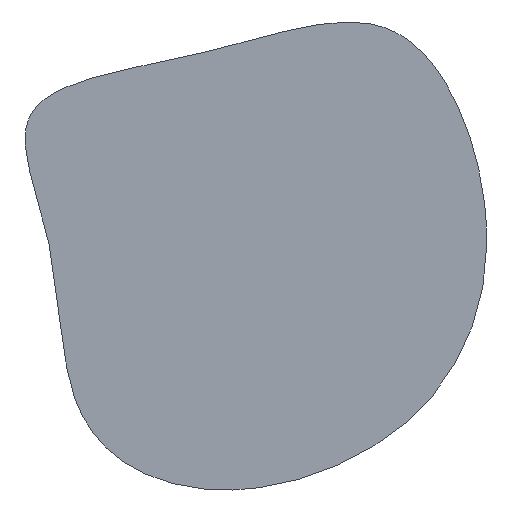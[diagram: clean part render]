
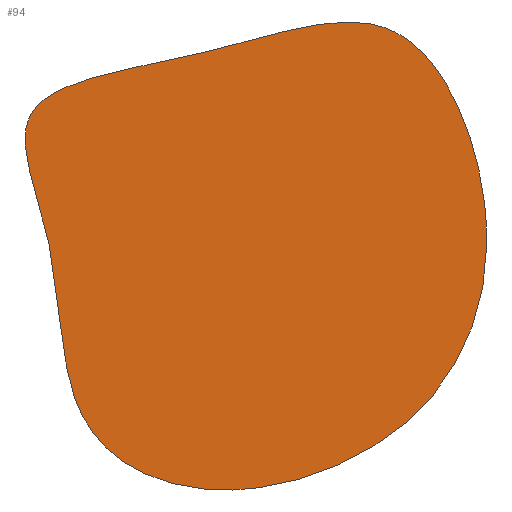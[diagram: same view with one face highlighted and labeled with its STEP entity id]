
A CAD part, front view. The second image highlights one B-rep face of the part: STEP entity #94.
In plain terms, the highlighted planar face has unit normal (0, -1, 0).
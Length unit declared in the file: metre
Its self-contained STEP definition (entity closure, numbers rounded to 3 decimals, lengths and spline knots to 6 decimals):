
#12=PLANE('',#109);
#38=ORIENTED_EDGE('',*,*,#48,.F.);
#39=ORIENTED_EDGE('',*,*,#57,.F.);
#40=ORIENTED_EDGE('',*,*,#54,.F.);
#41=ORIENTED_EDGE('',*,*,#51,.F.);
#48=EDGE_CURVE('',#60,#61,#67,.T.);
#51=EDGE_CURVE('',#61,#63,#69,.T.);
#54=EDGE_CURVE('',#63,#65,#71,.T.);
#57=EDGE_CURVE('',#65,#60,#73,.T.);
#60=VERTEX_POINT('',#148);
#61=VERTEX_POINT('',#154);
#63=VERTEX_POINT('',#189);
#65=VERTEX_POINT('',#220);
#67=B_SPLINE_CURVE_WITH_KNOTS('',3,(#149,#150,#151,#152,#153),
 .UNSPECIFIED.,.F.,.F.,(4,1,4),(0.,0.11016,0.234055),
 .UNSPECIFIED.);
#69=B_SPLINE_CURVE_WITH_KNOTS('',3,(#184,#185,#186,#187,#188),
 .UNSPECIFIED.,.F.,.F.,(4,1,4),(0.234055,0.340774,0.467056),
 .UNSPECIFIED.);
#71=B_SPLINE_CURVE_WITH_KNOTS('',3,(#215,#216,#217,#218,#219),
 .UNSPECIFIED.,.F.,.F.,(4,1,4),(0.467056,0.595996,0.735879),
 .UNSPECIFIED.);
#73=B_SPLINE_CURVE_WITH_KNOTS('',3,(#237,#238,#239,#240,#241),
 .UNSPECIFIED.,.F.,.F.,(4,1,4),(0.735879,0.868186,1.),
 .UNSPECIFIED.);
#78=EDGE_LOOP('',(#38,#39,#40,#41));
#84=FACE_BOUND('',#78,.T.);
#94=ADVANCED_FACE('',(#84),#12,.T.);
#109=AXIS2_PLACEMENT_3D('',#242,#117,#118);
#117=DIRECTION('',(0.,-1.,0.));
#118=DIRECTION('',(-1.,0.,0.));
#148=CARTESIAN_POINT('',(0.02297,-0.02651,-0.026268));
#149=CARTESIAN_POINT('',(0.02297,-0.02651,-0.026268));
#150=CARTESIAN_POINT('',(0.016848,-0.02651,-0.025762));
#151=CARTESIAN_POINT('',(0.005645,-0.02651,-0.019821));
#152=CARTESIAN_POINT('',(0.006484,-0.02651,-0.005295));
#153=CARTESIAN_POINT('',(0.00497,-0.02651,0.001732));
#154=CARTESIAN_POINT('',(0.00497,-0.02651,0.001732));
#184=CARTESIAN_POINT('',(0.00497,-0.02651,0.001732));
#185=CARTESIAN_POINT('',(0.003666,-0.02651,0.007785));
#186=CARTESIAN_POINT('',(-0.002353,-0.02651,0.019926));
#187=CARTESIAN_POINT('',(0.014594,-0.02651,0.021701));
#188=CARTESIAN_POINT('',(0.02297,-0.02651,0.023732));
#189=CARTESIAN_POINT('',(0.02297,-0.02651,0.023732));
#215=CARTESIAN_POINT('',(0.02297,-0.02651,0.023732));
#216=CARTESIAN_POINT('',(0.031523,-0.02651,0.025806));
#217=CARTESIAN_POINT('',(0.047597,-0.02651,0.032452));
#218=CARTESIAN_POINT('',(0.055097,-0.02651,0.011066));
#219=CARTESIAN_POINT('',(0.05497,-0.02651,0.001732));
#220=CARTESIAN_POINT('',(0.05497,-0.02651,0.001732));
#237=CARTESIAN_POINT('',(0.05497,-0.02651,0.001732));
#238=CARTESIAN_POINT('',(0.05485,-0.02651,-0.007096));
#239=CARTESIAN_POINT('',(0.047413,-0.02651,-0.021514));
#240=CARTESIAN_POINT('',(0.030296,-0.02651,-0.026873));
#241=CARTESIAN_POINT('',(0.02297,-0.02651,-0.026268));
#242=CARTESIAN_POINT('',(0.028487,-0.02651,0.000405));
